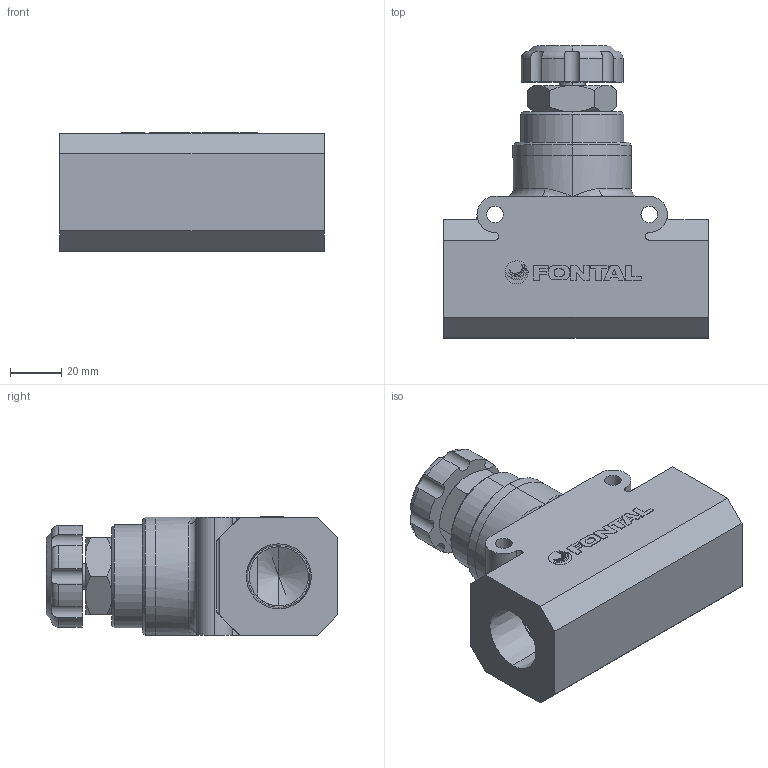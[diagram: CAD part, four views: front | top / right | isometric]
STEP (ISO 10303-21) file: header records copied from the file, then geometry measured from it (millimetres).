
FILE_DESCRIPTION (( 'STEP AP203' ), '1' );
FILE_NAME ('SP-20-6.STEP', '2016-01-14T20:22:08', ( '' ), ( '' ), 'SwSTEP 2.0', 'SolidWorks 2014', '' );
FILE_SCHEMA (( 'CONFIG_CONTROL_DESIGN' ));
Length unit declared in the file: millimetre
Products named in the file (7): SP-20-2; SP-20-4; SP-20-6; SP-20-1; SP-20-3; ZH-20-MARK; SP-20-5
Assembly tree (6 placements, depth 2):
  SP-20-6
    SP-20-1
    SP-20-2
    SP-20-3
    SP-20-4
    SP-20-5
    ZH-20-MARK
Bounding box: 103 x 113.5 x 46.25 mm (x, y, z)
Volume: 284160.9 mm3; surface area: 44231.4 mm2
Topology: 12 solids, 12 shells, 220 faces, 556 edges, 357 vertices
Faces by surface type: plane 104, cylinder 68, cone 26, bspline 12, torus 10
Entity records: 7994 total; most frequent: CARTESIAN_POINT 2062, ORIENTED_EDGE 1096, DIRECTION 1059, EDGE_CURVE 548, AXIS2_PLACEMENT_3D 374, VERTEX_POINT 357, VECTOR 311, LINE 311
